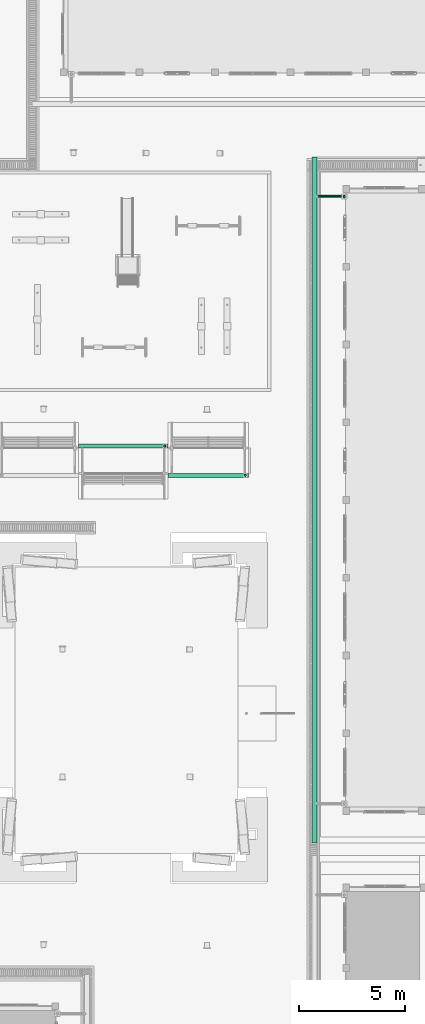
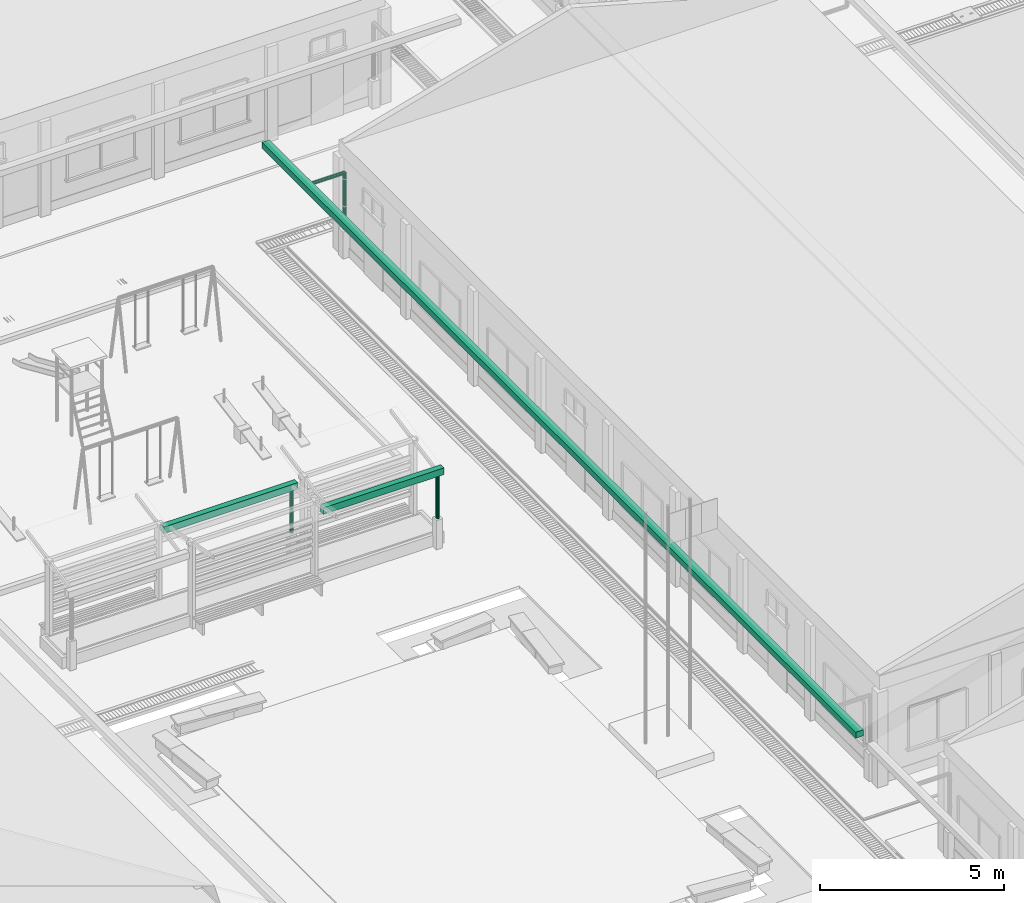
# One storey, part 99 of 151: 7 flow segments.
"""IFC2X3 building model written with IfcOpenShell, lengths in metres."""

from ifc_helpers import new_model, si_unit, origin, origin_with_axes, place, context, subcontext, project, spatial, faceted_brep, element, save


model = new_model("IFC2X3")

# Units and contexts
model_context = context("Model", 3, precision=1e-05, world=origin_with_axes())
body_context = subcontext(model_context, "Body", "Model", "MODEL_VIEW")
ifc_project = project(units=[si_unit("LENGTHUNIT", "METRE"), si_unit("AREAUNIT", "SQUARE_METRE"), si_unit("VOLUMEUNIT", "CUBIC_METRE"), si_unit("PLANEANGLEUNIT", "RADIAN")], contexts=[model_context])

# Site, building, storey
site_placement = place(None, origin_with_axes())
site = spatial("IfcSite", under=ifc_project, at=site_placement, Name="Predio Los Mangos - Morales, San Martín", CompositionType="ELEMENT")
building_placement = place(site_placement, origin())
building = spatial("IfcBuilding", under=site, at=building_placement, Name="Hogar de Refugio Temporal", CompositionType="ELEMENT")
storey_placement = place(building_placement, origin())
storey = spatial("IfcBuildingStorey", under=building, at=storey_placement, Name="NIVEL 1 (NPT +0.00)", CompositionType="ELEMENT", Elevation=0.0)

# Flow segments
flow_segment_1_placement = place(storey_placement, origin())
element("IfcFlowSegment", 1, at=flow_segment_1_placement, inside=storey, Name="E-05_canaleta", ObjectType="Canaleta", context=body_context, shape_type="Brep", body=[
    faceted_brep([(43.68, 56.4, 3.13), (43.68, 88.7, 3.13), (43.92, 88.7, 3.13), (43.92, 56.4, 3.13), (43.68, 56.4, 3.33), (43.92, 56.4, 3.33), (43.92, 88.7, 3.33), (43.68, 88.7, 3.33)], [[[0, 1, 2, 3]], [[4, 5, 6, 7]], [[0, 3, 5, 4]], [[3, 2, 6, 5]], [[2, 1, 7, 6]], [[1, 0, 4, 7]]]),
])
flow_segment_2_placement = place(storey_placement, origin())
element("IfcFlowSegment", 2, at=flow_segment_2_placement, inside=storey, Name="montante_desvio", ObjectType="Montante PVC 4\"", context=body_context, shape_type="Brep", body=[
    faceted_brep([(43.92, 86.85, 2.965), (45.21, 86.85, 2.965), (45.21, 86.8775, 2.9576), (43.92, 86.8775, 2.9576), (45.21, 86.8976, 2.9375), (43.92, 86.8976, 2.9375), (45.21, 86.905, 2.91), (43.92, 86.905, 2.91), (45.21, 86.8976, 2.8825), (43.92, 86.8976, 2.8825), (45.21, 86.8775, 2.8624), (43.92, 86.8775, 2.8624), (45.21, 86.85, 2.855), (43.92, 86.85, 2.855), (45.21, 86.8225, 2.8624), (43.92, 86.8225, 2.8624), (45.21, 86.8024, 2.8825), (43.92, 86.8024, 2.8825), (45.21, 86.795, 2.91), (43.92, 86.795, 2.91), (45.21, 86.8024, 2.9375), (43.92, 86.8024, 2.9375), (45.21, 86.8225, 2.9576), (43.92, 86.8225, 2.9576)], [[[0, 1, 2, 3]], [[3, 2, 4, 5]], [[5, 4, 6, 7]], [[7, 6, 8, 9]], [[9, 8, 10, 11]], [[11, 10, 12, 13]], [[13, 12, 14, 15]], [[15, 14, 16, 17]], [[17, 16, 18, 19]], [[19, 18, 20, 21]], [[2, 1, 22, 20, 18, 16, 14, 12, 10, 8, 6, 4]], [[21, 20, 22, 23]], [[23, 22, 1, 0]], [[0, 3, 5, 7, 9, 11, 13, 15, 17, 19, 21, 23]]]),
])
flow_segment_3_placement = place(storey_placement, origin())
element("IfcFlowSegment", 3, at=flow_segment_3_placement, inside=storey, Name="montante_bajada", ObjectType="Montante PVC 4\"", context=body_context, shape_type="Brep", body=[
    faceted_brep([(45.21, 86.905, 2.91), (45.21, 86.905, 1.05), (45.1825, 86.8976, 1.05), (45.1825, 86.8976, 2.91), (45.1624, 86.8775, 1.05), (45.1624, 86.8775, 2.91), (45.155, 86.85, 1.05), (45.155, 86.85, 2.91), (45.1624, 86.8225, 1.05), (45.1624, 86.8225, 2.91), (45.1825, 86.8024, 1.05), (45.1825, 86.8024, 2.91), (45.21, 86.795, 1.05), (45.21, 86.795, 2.91), (45.2375, 86.8024, 1.05), (45.2375, 86.8024, 2.91), (45.2576, 86.8225, 1.05), (45.2576, 86.8225, 2.91), (45.265, 86.85, 1.05), (45.265, 86.85, 2.91), (45.2576, 86.8775, 1.05), (45.2576, 86.8775, 2.91), (45.2375, 86.8976, 1.05), (45.2375, 86.8976, 2.91)], [[[0, 1, 2, 3]], [[3, 2, 4, 5]], [[5, 4, 6, 7]], [[7, 6, 8, 9]], [[9, 8, 10, 11]], [[11, 10, 12, 13]], [[13, 12, 14, 15]], [[15, 14, 16, 17]], [[17, 16, 18, 19]], [[19, 18, 20, 21]], [[2, 1, 22, 20, 18, 16, 14, 12, 10, 8, 6, 4]], [[21, 20, 22, 23]], [[23, 22, 1, 0]], [[0, 3, 5, 7, 9, 11, 13, 15, 17, 19, 21, 23]]]),
])
flow_segment_4_placement = place(storey_placement, origin())
element("IfcFlowSegment", 4, at=flow_segment_4_placement, inside=storey, Name="oc01_canaleta", ObjectType="Canaleta", context=body_context, shape_type="Brep", body=[
    faceted_brep([(40.695, 73.8, 2.49), (40.695, 73.62, 2.49), (36.905, 73.62, 2.49), (36.905, 73.8, 2.49), (40.695, 73.8, 2.71), (36.905, 73.8, 2.71), (36.905, 73.62, 2.71), (40.695, 73.62, 2.71)], [[[0, 1, 2, 3]], [[4, 5, 6, 7]], [[0, 3, 5, 4]], [[3, 2, 6, 5]], [[2, 1, 7, 6]], [[1, 0, 4, 7]]]),
])
flow_segment_5_placement = place(storey_placement, origin())
element("IfcFlowSegment", 5, at=flow_segment_5_placement, inside=storey, Name="oc01_bajada", ObjectType="Montante PVC 4\"", context=body_context, shape_type="Brep", body=[
    faceted_brep([(40.545, 73.765, 2.49), (40.545, 73.765, 1.05), (40.5175, 73.7576, 1.05), (40.5175, 73.7576, 2.49), (40.4974, 73.7375, 1.05), (40.4974, 73.7375, 2.49), (40.49, 73.71, 1.05), (40.49, 73.71, 2.49), (40.4974, 73.6825, 1.05), (40.4974, 73.6825, 2.49), (40.5175, 73.6624, 1.05), (40.5175, 73.6624, 2.49), (40.545, 73.655, 1.05), (40.545, 73.655, 2.49), (40.5725, 73.6624, 1.05), (40.5725, 73.6624, 2.49), (40.5926, 73.6825, 1.05), (40.5926, 73.6825, 2.49), (40.6, 73.71, 1.05), (40.6, 73.71, 2.49), (40.5926, 73.7375, 1.05), (40.5926, 73.7375, 2.49), (40.5725, 73.7576, 1.05), (40.5725, 73.7576, 2.49)], [[[0, 1, 2, 3]], [[3, 2, 4, 5]], [[5, 4, 6, 7]], [[7, 6, 8, 9]], [[9, 8, 10, 11]], [[11, 10, 12, 13]], [[13, 12, 14, 15]], [[15, 14, 16, 17]], [[17, 16, 18, 19]], [[19, 18, 20, 21]], [[2, 1, 22, 20, 18, 16, 14, 12, 10, 8, 6, 4]], [[21, 20, 22, 23]], [[23, 22, 1, 0]], [[0, 3, 5, 7, 9, 11, 13, 15, 17, 19, 21, 23]]]),
])
flow_segment_6_placement = place(storey_placement, origin())
element("IfcFlowSegment", 6, at=flow_segment_6_placement, inside=storey, Name="oc01_canaleta", ObjectType="Canaleta", context=body_context, shape_type="Brep", body=[
    faceted_brep([(36.905, 75.18, 2.49), (36.905, 75.0, 2.49), (32.695, 75.0, 2.49), (32.695, 75.18, 2.49), (36.905, 75.18, 2.71), (32.695, 75.18, 2.71), (32.695, 75.0, 2.71), (36.905, 75.0, 2.71)], [[[0, 1, 2, 3]], [[4, 5, 6, 7]], [[0, 3, 5, 4]], [[3, 2, 6, 5]], [[2, 1, 7, 6]], [[1, 0, 4, 7]]]),
])
flow_segment_7_placement = place(storey_placement, origin())
element("IfcFlowSegment", 7, at=flow_segment_7_placement, inside=storey, Name="oc01_bajada", ObjectType="Montante PVC 4\"", context=body_context, shape_type="Brep", body=[
    faceted_brep([(36.755, 75.145, 2.49), (36.755, 75.145, 1.05), (36.7275, 75.1376, 1.05), (36.7275, 75.1376, 2.49), (36.7074, 75.1175, 1.05), (36.7074, 75.1175, 2.49), (36.7, 75.09, 1.05), (36.7, 75.09, 2.49), (36.7074, 75.0625, 1.05), (36.7074, 75.0625, 2.49), (36.7275, 75.0424, 1.05), (36.7275, 75.0424, 2.49), (36.755, 75.035, 1.05), (36.755, 75.035, 2.49), (36.7825, 75.0424, 1.05), (36.7825, 75.0424, 2.49), (36.8026, 75.0625, 1.05), (36.8026, 75.0625, 2.49), (36.81, 75.09, 1.05), (36.81, 75.09, 2.49), (36.8026, 75.1175, 1.05), (36.8026, 75.1175, 2.49), (36.7825, 75.1376, 1.05), (36.7825, 75.1376, 2.49)], [[[0, 1, 2, 3]], [[3, 2, 4, 5]], [[5, 4, 6, 7]], [[7, 6, 8, 9]], [[9, 8, 10, 11]], [[11, 10, 12, 13]], [[13, 12, 14, 15]], [[15, 14, 16, 17]], [[17, 16, 18, 19]], [[19, 18, 20, 21]], [[2, 1, 22, 20, 18, 16, 14, 12, 10, 8, 6, 4]], [[21, 20, 22, 23]], [[23, 22, 1, 0]], [[0, 3, 5, 7, 9, 11, 13, 15, 17, 19, 21, 23]]]),
])

save(model, "model.ifc")
